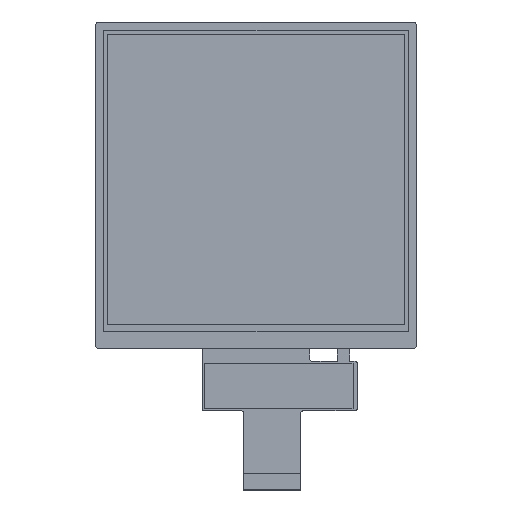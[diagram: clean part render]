
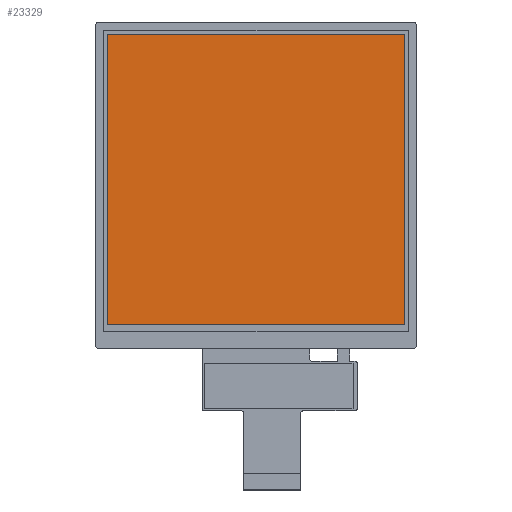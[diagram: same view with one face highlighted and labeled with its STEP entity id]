
A CAD part, top view. The second image highlights one B-rep face of the part: STEP entity #23329.
In plain terms, the highlighted planar face has unit normal (0, 0, 1).
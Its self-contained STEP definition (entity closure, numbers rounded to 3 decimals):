
#1337 = VERTEX_POINT ( 'NONE', #5500 ) ;
#1652 = FACE_OUTER_BOUND ( 'NONE', #23388, .T. ) ;
#2769 = DIRECTION ( 'NONE',  ( 1., 0., 0. ) ) ;
#2896 = DIRECTION ( 'NONE',  ( 0., -1., 0. ) ) ;
#3583 = LINE ( 'NONE', #14051, #19146 ) ;
#3771 = DIRECTION ( 'NONE',  ( 1., 0., 0. ) ) ;
#4339 = VECTOR ( 'NONE', #19985, 1000. ) ;
#5500 = CARTESIAN_POINT ( 'NONE',  ( -35.93, 36.585, 2.3 ) ) ;
#6203 = PLANE ( 'NONE',  #19938 ) ;
#6331 = ORIENTED_EDGE ( 'NONE', *, *, #23545, .F. ) ;
#7318 = LINE ( 'NONE', #15959, #18183 ) ;
#7903 = ORIENTED_EDGE ( 'NONE', *, *, #21619, .F. ) ;
#8471 = DIRECTION ( 'NONE',  ( 0., 0., 1. ) ) ;
#9632 = ORIENTED_EDGE ( 'NONE', *, *, #27443, .F. ) ;
#11320 = CARTESIAN_POINT ( 'NONE',  ( 0., -33.595, 2.3 ) ) ;
#11396 = CARTESIAN_POINT ( 'NONE',  ( 35.93, 36.585, 2.3 ) ) ;
#11399 = CARTESIAN_POINT ( 'NONE',  ( 35.93, -33.595, 2.3 ) ) ;
#12198 = DIRECTION ( 'NONE',  ( 0., 1., 0. ) ) ;
#12679 = VECTOR ( 'NONE', #2769, 1000. ) ;
#14051 = CARTESIAN_POINT ( 'NONE',  ( -35.93, 0., 2.3 ) ) ;
#15146 = VERTEX_POINT ( 'NONE', #11396 ) ;
#15244 = VERTEX_POINT ( 'NONE', #21292 ) ;
#15959 = CARTESIAN_POINT ( 'NONE',  ( 35.93, 0., 2.3 ) ) ;
#16893 = VERTEX_POINT ( 'NONE', #11399 ) ;
#17249 = CARTESIAN_POINT ( 'NONE',  ( 0., 0., 2.3 ) ) ;
#17484 = ORIENTED_EDGE ( 'NONE', *, *, #25040, .F. ) ;
#17961 = CARTESIAN_POINT ( 'NONE',  ( 0., 36.585, 2.3 ) ) ;
#18183 = VECTOR ( 'NONE', #2896, 1000. ) ;
#19146 = VECTOR ( 'NONE', #12198, 1000. ) ;
#19938 = AXIS2_PLACEMENT_3D ( 'NONE', #17249, #8471, #3771 ) ;
#19985 = DIRECTION ( 'NONE',  ( -1., 0., 0. ) ) ;
#21292 = CARTESIAN_POINT ( 'NONE',  ( -35.93, -33.595, 2.3 ) ) ;
#21619 = EDGE_CURVE ( 'NONE', #15146, #16893, #7318, .T. ) ;
#23329 = ADVANCED_FACE ( 'NONE', ( #1652 ), #6203, .T. ) ;
#23388 = EDGE_LOOP ( 'NONE', ( #17484, #9632, #7903, #6331 ) ) ;
#23545 = EDGE_CURVE ( 'NONE', #1337, #15146, #24253, .T. ) ;
#24253 = LINE ( 'NONE', #17961, #12679 ) ;
#25040 = EDGE_CURVE ( 'NONE', #15244, #1337, #3583, .T. ) ;
#26670 = LINE ( 'NONE', #11320, #4339 ) ;
#27443 = EDGE_CURVE ( 'NONE', #16893, #15244, #26670, .T. ) ;
